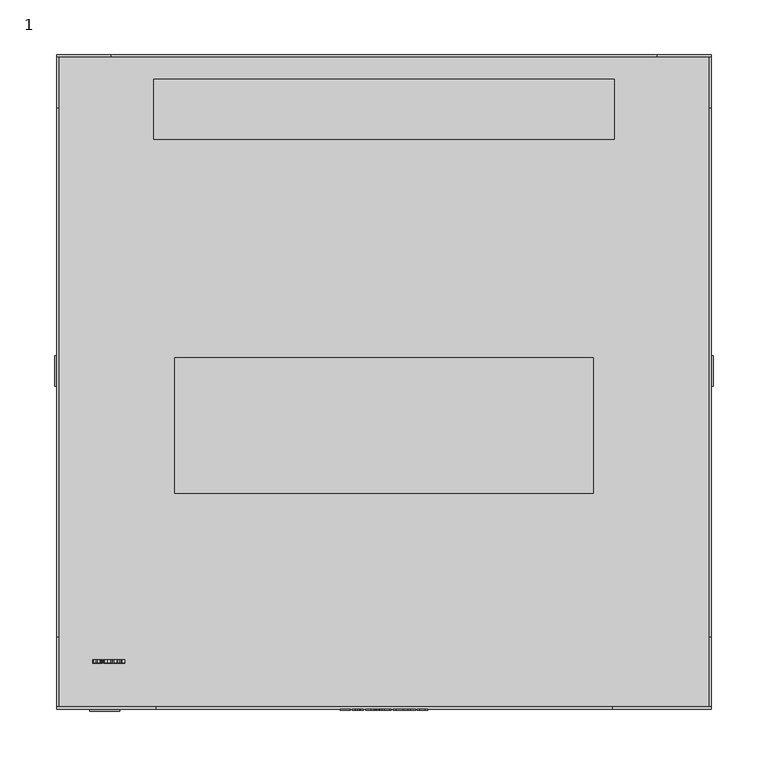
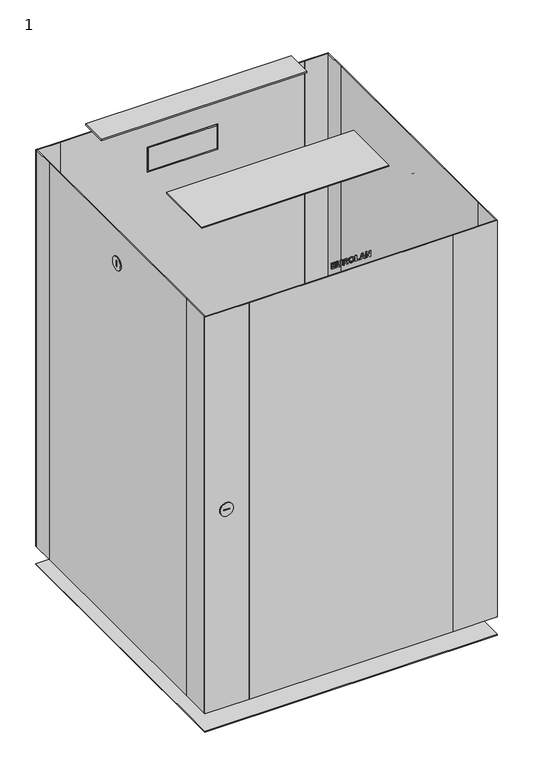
"""IFC4 building model written with IfcOpenShell, lengths in millimetres: proxy geometry, 1 : 18U 600мм стеклянная дверь."""

from ifc_helpers import new_model, si_unit, point, frame, frame_2d, origin, origin_with_axes, place, context, project, spatial, polyline, circle_curve, trimmed, segment, composite_curve, outline, extrude, source, transform, mapped, element, save


def proxy_1_49b35c16(model_context):
    return source(origin(), model_context, "Body", "SweptSolid", [
        extrude(outline(polyline([(914.0, -40.3245382), (914.0, -30.9964522), (916.1376864, -30.9964522), (916.1376864, -37.9925167), (919.2470483, -37.9925167), (919.2470483, -31.5794576), (921.3847347, -31.5794576), (921.3847347, -37.9925167), (924.1054264, -37.9925167), (924.1054264, -31.1907874), (926.2431128, -31.1907874), (926.2431128, -40.3245382), (914.0, -40.3245382)])), frame((0.0, -301.0, 0.0), z_axis=(0.0, 1.0, 0.0), x_axis=(0.0, 0.0, 1.0)), (0.0, 0.0, 1.0), 1.0),
        extrude(outline(polyline([(926.2431128, -29.053101), (919.7207402, -29.053101), (916.6174512, -28.8071456), (915.2601418, -28.1026808), (914.2095176, -26.6482039), (913.8056649, -23.9487675), (914.1761162, -21.5575346), (915.173602, -20.0954664), (916.7085458, -19.3454543), (919.8209443, -19.1420097), (926.2431128, -19.1420097), (926.2431128, -21.4740312), (919.4960402, -21.4740312), (917.4236383, -21.5924541), (916.3714958, -22.2923642), (915.9433512, -24.0216432), (916.3973059, -25.7979877), (917.5982363, -26.6208755), (919.6387551, -26.7210795), (926.2431128, -26.7210795), (926.2431128, -29.053101)])), frame((0.0, -301.0, 0.0), z_axis=(0.0, 1.0, 0.0), x_axis=(0.0, 0.0, 1.0)), (0.0, 0.0, 1.0), 1.0),
        extrude(outline(polyline([(914.0, -16.8099882), (914.0, -14.4779667), (919.0527132, -13.9435451), (918.9251808, -12.6120459), (918.4560437, -11.8164865), (916.7966039, -10.4242575), (914.0, -8.6509495), (914.0, -5.9272213), (916.3745323, -7.424209), (918.3512849, -8.7238252), (919.3715443, -9.9475291), (920.5071902, -7.6625732), (922.7936644, -6.8988969), (924.7339791, -7.4272455), (925.9121358, -8.8361752), (926.2431128, -11.6601074), (926.2431128, -16.8099882), (914.0, -16.8099882)]), holes=[polyline([(921.1903996, -14.4779667), (924.1054264, -14.4779667), (924.1054264, -12.4495939), (924.0659521, -10.5548264), (923.6150339, -9.5770778), (922.6782779, -9.2309184), (921.817434, -9.4935744), (921.3315962, -10.2223312), (921.1903996, -12.5558709), (921.1903996, -14.4779667)])]), frame((0.0, -301.0, 0.0), z_axis=(0.0, 1.0, 0.0), x_axis=(0.0, 0.0, 1.0)), (0.0, 0.0, 1.0), 1.0),
        extrude(outline(polyline([(920.0456442, -4.9555457), (915.4681411, -3.3735363), (913.8056649, 0.8896905), (915.4757323, 5.1225524), (920.106374, 6.7045618), (924.7628257, 5.1104065), (926.4374479, 0.8593256), (925.9546466, -1.7338337), (924.8539203, -3.2869964), (923.1792981, -4.4059416), (920.0456442, -4.9555457)]), holes=[polyline([(920.1306659, -2.6235242), (923.2612832, -1.6579215), (924.2997616, 0.886654), (923.2734292, 3.4190836), (920.1640672, 4.3725403), (916.9985302, 3.3932735), (915.9433512, 0.886654), (917.0061214, -1.6321114), (920.1306659, -2.6235242)])]), frame((0.0, -301.0, 0.0), z_axis=(0.0, 1.0, 0.0), x_axis=(0.0, 0.0, 1.0)), (0.0, 0.0, 1.0), 1.0),
        extrude(outline(polyline([(914.0, 8.647913), (914.0, 17.1986585), (916.1376864, 17.1986585), (916.1376864, 10.9799345), (926.2431128, 10.9799345), (926.2431128, 8.647913), (914.0, 8.647913)])), frame((0.0, -301.0, 0.0), z_axis=(0.0, 1.0, 0.0), x_axis=(0.0, 0.0, 1.0)), (0.0, 0.0, 1.0), 1.0),
        extrude(outline(polyline([(914.0, 29.2474361), (926.2431128, 24.7352175), (926.2431128, 22.2513717), (914.0, 17.7816638), (914.0, 20.2655096), (916.7206917, 21.2128934), (916.7206917, 25.837462), (914.0, 26.7969917), (914.0, 29.2474361)]), holes=[polyline([(918.8583781, 25.0904864), (918.8583781, 21.959869), (923.3280859, 23.51455), (918.8583781, 25.0904864)])]), frame((0.0, -301.0, 0.0), z_axis=(0.0, 1.0, 0.0), x_axis=(0.0, 0.0, 1.0)), (0.0, 0.0, 1.0), 1.0),
        extrude(outline(polyline([(914.0, 30.4134469), (914.0, 32.7454684), (922.1195644, 32.7454684), (914.0, 37.8042546), (914.0, 40.3245382), (926.2431128, 40.3245382), (926.2431128, 37.9925167), (918.002089, 37.9925167), (926.2431128, 32.8578184), (926.2431128, 30.4134469), (914.0, 30.4134469)])), frame((0.0, -301.0, 0.0), z_axis=(0.0, 1.0, 0.0), x_axis=(0.0, 0.0, 1.0)), (0.0, 0.0, 1.0), 1.0),
        extrude(outline(composite_curve([segment(trimmed(circle_curve(frame_2d((9.997621, 829.4611412)), 14.0), [point((-4.002379, 829.4611412))], [point((23.997621, 829.4611412))], False, "CARTESIAN"), True, "CONTINUOUS"), segment(trimmed(circle_curve(frame_2d((9.997621, 829.4611412)), 14.0), [point((23.997621, 829.4611412))], [point((-4.002379, 829.4611412))], False, "CARTESIAN"), True, "CONTINUOUS")], self_intersect=False), holes=[polyline([(11.0, 835.5), (9.0, 835.5), (9.0, 823.5), (11.0, 823.5), (11.0, 835.5)])]), frame((-302.0, 0.0, 0.0), z_axis=(1.0, 0.0, 0.0), x_axis=(0.0, 1.0, 0.0)), (0.0, 0.0, 1.0), 2.0),
        extrude(outline(composite_curve([segment(trimmed(circle_curve(frame_2d((9.997621, 829.4611412)), 14.0), [point((-4.002379, 829.4611412))], [point((23.997621, 829.4611412))], False, "CARTESIAN"), True, "CONTINUOUS"), segment(trimmed(circle_curve(frame_2d((9.997621, 829.4611412)), 14.0), [point((23.997621, 829.4611412))], [point((-4.002379, 829.4611412))], False, "CARTESIAN"), True, "CONTINUOUS")], self_intersect=False), holes=[polyline([(11.0, 835.5), (9.0, 835.5), (9.0, 823.5), (11.0, 823.5), (11.0, 835.5)])]), frame((300.0, 0.0, 0.0), z_axis=(1.0, 0.0, 0.0), x_axis=(0.0, 1.0, 0.0)), (0.0, 0.0, 1.0), 2.0),
        extrude(outline(composite_curve([segment(trimmed(circle_curve(frame_2d((469.0, -256.0)), 13.7647373), [point((469.0, -242.2352627))], [point((469.0, -269.7647373))], False, "CARTESIAN"), True, "CONTINUOUS"), segment(trimmed(circle_curve(frame_2d((469.0, -256.0)), 13.7647373), [point((469.0, -269.7647373))], [point((469.0, -242.2352627))], False, "CARTESIAN"), True, "CONTINUOUS")], self_intersect=False), holes=[polyline([(470.0, -250.0), (468.0, -250.0), (468.0, -262.0), (470.0, -262.0), (470.0, -250.0)])]), frame((0.0, -302.0, 0.0), z_axis=(0.0, 1.0, 0.0), x_axis=(0.0, 0.0, 1.0)), (0.0, 0.0, 1.0), 2.0),
        extrude(outline(polyline([(300.0, 300.0), (300.0, -300.0), (-300.0, -300.0), (-300.0, 300.0), (300.0, 300.0)])), origin_with_axes(), (0.0, 0.0, 1.0), 2.0),
        extrude(outline(polyline([(211.0, 277.5), (211.0, 222.5), (-211.0, 222.5), (-211.0, 277.5), (211.0, 277.5)])), frame((0.0, 0.0, 934.9795778), z_axis=(0.0, 0.0, 1.0), x_axis=(1.0, 0.0, 0.0)), (0.0, 0.0, 1.0), 3.0204222),
        extrude(outline(polyline([(192.0, 22.0), (192.0, -102.0), (-192.0, -102.0), (-192.0, 22.0), (192.0, 22.0)])), frame((0.0, 0.0, 934.9795778), z_axis=(0.0, 0.0, 1.0), x_axis=(1.0, 0.0, 0.0)), (0.0, 0.0, 1.0), 3.0204222),
        extrude(outline(polyline([(-69.5, 300.0), (69.5, 300.0), (69.5, 298.0), (-69.5, 298.0), (-69.5, 300.0)])), frame((0.0, 0.0, 775.0), z_axis=(0.0, 0.0, 1.0), x_axis=(1.0, 0.0, 0.0)), (0.0, 0.0, 1.0), 49.0),
        extrude(outline(polyline([(900.0, -250.0), (40.0, -250.0), (40.0, 250.0), (900.0, 250.0), (900.0, -250.0)]), holes=[polyline([(827.0, -72.5), (827.0, 72.5), (772.0, 72.5), (772.0, -72.5), (827.0, -72.5)])]), frame((0.0, 298.0, 0.0), z_axis=(0.0, 1.0, 0.0), x_axis=(0.0, 0.0, 1.0)), (0.0, 0.0, 1.0), 2.0),
        extrude(outline(polyline([(-300.0, 300.0), (-250.0, 300.0), (-250.0, 298.0), (-300.0, 298.0), (-300.0, 300.0)])), frame((0.0, 0.0, 40.0), z_axis=(0.0, 0.0, 1.0), x_axis=(1.0, 0.0, 0.0)), (0.0, 0.0, 1.0), 860.0),
        extrude(outline(polyline([(250.0, 300.0), (300.0, 300.0), (300.0, 298.0), (250.0, 298.0), (250.0, 300.0)])), frame((0.0, 0.0, 40.0), z_axis=(0.0, 0.0, 1.0), x_axis=(1.0, 0.0, 0.0)), (0.0, 0.0, 1.0), 860.0),
        extrude(outline(polyline([(-209.0, -298.0), (209.0, -298.0), (209.0, -300.0), (-209.0, -300.0), (-209.0, -298.0)])), frame((0.0, 0.0, 40.0), z_axis=(0.0, 0.0, 1.0), x_axis=(1.0, 0.0, 0.0)), (0.0, 0.0, 1.0), 860.0),
        extrude(outline(polyline([(209.0, -298.0), (300.0, -298.0), (300.0, -300.0), (209.0, -300.0), (209.0, -298.0)])), frame((0.0, 0.0, 40.0), z_axis=(0.0, 0.0, 1.0), x_axis=(1.0, 0.0, 0.0)), (0.0, 0.0, 1.0), 860.0),
        extrude(outline(polyline([(-300.0, -298.0), (-209.0, -298.0), (-209.0, -300.0), (-300.0, -300.0), (-300.0, -298.0)])), frame((0.0, 0.0, 40.0), z_axis=(0.0, 0.0, 1.0), x_axis=(1.0, 0.0, 0.0)), (0.0, 0.0, 1.0), 860.0),
        extrude(outline(polyline([(-298.0, 250.8155315), (-298.0, -233.7095641), (-300.0, -233.7095641), (-300.0, 250.8155315), (-298.0, 250.8155315)])), frame((0.0, 0.0, 40.0), z_axis=(0.0, 0.0, 1.0), x_axis=(1.0, 0.0, 0.0)), (0.0, 0.0, 1.0), 860.0),
        extrude(outline(polyline([(-298.0, -233.7095641), (-298.0, -300.0), (-300.0, -300.0), (-300.0, -233.7095641), (-298.0, -233.7095641)])), frame((0.0, 0.0, 40.0), z_axis=(0.0, 0.0, 1.0), x_axis=(1.0, 0.0, 0.0)), (0.0, 0.0, 1.0), 860.0),
        extrude(outline(polyline([(-298.0, 300.0), (-298.0, 250.8155315), (-300.0, 250.8155315), (-300.0, 300.0), (-298.0, 300.0)])), frame((0.0, 0.0, 40.0), z_axis=(0.0, 0.0, 1.0), x_axis=(1.0, 0.0, 0.0)), (0.0, 0.0, 1.0), 860.0),
        extrude(outline(polyline([(300.0, 250.8155315), (300.0, -233.7095641), (298.0, -233.7095641), (298.0, 250.8155315), (300.0, 250.8155315)])), frame((0.0, 0.0, 40.0), z_axis=(0.0, 0.0, 1.0), x_axis=(1.0, 0.0, 0.0)), (0.0, 0.0, 1.0), 860.0),
        extrude(outline(polyline([(300.0, 300.0), (300.0, 250.8155315), (298.0, 250.8155315), (298.0, 300.0), (300.0, 300.0)])), frame((0.0, 0.0, 40.0), z_axis=(0.0, 0.0, 1.0), x_axis=(1.0, 0.0, 0.0)), (0.0, 0.0, 1.0), 860.0),
        extrude(outline(polyline([(300.0, -233.7095641), (300.0, -300.0), (298.0, -300.0), (298.0, -233.7095641), (300.0, -233.7095641)])), frame((0.0, 0.0, 40.0), z_axis=(0.0, 0.0, 1.0), x_axis=(1.0, 0.0, 0.0)), (0.0, 0.0, 1.0), 860.0),
        extrude(outline(polyline([(814.9283299, -260.6030776), (827.1714427, -260.6030776), (827.1714427, -262.4614073), (825.2053178, -263.9037383), (824.0620807, -265.850126), (821.7300592, -265.850126), (823.6794834, -262.9350991), (814.9283299, -262.9350991), (814.9283299, -260.6030776)])), frame((0.0, -257.6777479, 0.0), z_axis=(0.0, 1.0, 0.0), x_axis=(0.0, 0.0, 1.0)), (0.0, 0.0, 1.0), 3.0),
        extrude(outline(polyline([(821.4962498, -255.0584536), (820.2254803, -256.6116164), (818.4172527, -257.1050454), (815.6024299, -255.8388306), (814.7339948, -253.1545767), (815.784619, -250.3761917), (818.5174567, -249.3316405), (820.3120201, -249.8584708), (821.4962498, -251.3964511), (822.508918, -250.0163681), (824.0226064, -249.5259756), (826.280234, -250.4946147), (827.1714427, -253.2183429), (826.280234, -255.9496624), (824.0226064, -256.9107103), (822.5499105, -256.4704198), (821.4962498, -255.0584536)]), holes=[polyline([(823.8798915, -254.5786888), (825.000355, -254.205201), (825.4224266, -253.2031605), (825.0033915, -252.2269302), (823.889001, -251.8579971), (822.7320997, -252.2314849), (822.3130646, -253.2274524), (822.727545, -254.2097557), (823.8798915, -254.5786888)]), polyline([(818.6146243, -254.7730239), (819.94916, -254.3889084), (820.5640485, -253.2213794), (820.0220357, -252.1039525), (818.5872959, -251.6636619), (817.0250237, -252.0963612), (816.4830109, -253.1910146), (817.0462791, -254.3205875), (818.6146243, -254.7730239)])]), frame((0.0, -257.6777479, 0.0), z_axis=(0.0, 1.0, 0.0), x_axis=(0.0, 0.0, 1.0)), (0.0, 0.0, 1.0), 3.0),
        extrude(outline(polyline([(827.1714427, -247.3882892), (820.6490701, -247.3882892), (817.5457811, -247.1423338), (816.1884717, -246.437869), (815.1378475, -244.9833921), (814.7339948, -242.2839557), (815.1044461, -239.8927228), (816.1019319, -238.4306546), (817.6368757, -237.6806425), (820.7492742, -237.4771979), (827.1714427, -237.4771979), (827.1714427, -239.8092194), (820.4243701, -239.8092194), (818.3519682, -239.9276424), (817.2998257, -240.6275524), (816.8716811, -242.3568314), (817.3256358, -244.1331759), (818.5265662, -244.9560637), (820.567085, -245.0562677), (827.1714427, -245.0562677), (827.1714427, -247.3882892)])), frame((0.0, -257.6777479, 0.0), z_axis=(0.0, 1.0, 0.0), x_axis=(0.0, 0.0, 1.0)), (0.0, 0.0, 1.0), 3.0),
        extrude(outline(polyline([(769.9283299, -260.6030776), (782.1714427, -260.6030776), (782.1714427, -262.4614073), (780.2053178, -263.9037383), (779.0620807, -265.850126), (776.7300592, -265.850126), (778.6794834, -262.9350991), (769.9283299, -262.9350991), (769.9283299, -260.6030776)])), frame((0.0, -257.6777479, 0.0), z_axis=(0.0, 1.0, 0.0), x_axis=(0.0, 0.0, 1.0)), (0.0, 0.0, 1.0), 3.0),
        extrude(outline(polyline([(779.6450861, -257.1050454), (779.6450861, -251.9976754), (775.0129262, -254.6804111), (769.9283299, -255.7446995), (769.9283299, -253.4126781), (773.5812229, -252.8873659), (777.440597, -251.3342032), (780.2280915, -249.3316405), (781.9771076, -249.3316405), (781.9771076, -257.1050454), (779.6450861, -257.1050454)])), frame((0.0, -257.6777479, 0.0), z_axis=(0.0, 1.0, 0.0), x_axis=(0.0, 0.0, 1.0)), (0.0, 0.0, 1.0), 3.0),
        extrude(outline(polyline([(782.1714427, -247.3882892), (775.6490701, -247.3882892), (772.5457811, -247.1423338), (771.1884717, -246.437869), (770.1378475, -244.9833921), (769.7339948, -242.2839557), (770.1044461, -239.8927228), (771.1019319, -238.4306546), (772.6368757, -237.6806425), (775.7492742, -237.4771979), (782.1714427, -237.4771979), (782.1714427, -239.8092194), (775.4243701, -239.8092194), (773.3519682, -239.9276424), (772.2998257, -240.6275524), (771.8716811, -242.3568314), (772.3256358, -244.1331759), (773.5265662, -244.9560637), (775.567085, -245.0562677), (782.1714427, -245.0562677), (782.1714427, -247.3882892)])), frame((0.0, -257.6777479, 0.0), z_axis=(0.0, 1.0, 0.0), x_axis=(0.0, 0.0, 1.0)), (0.0, 0.0, 1.0), 3.0),
        extrude(outline(polyline([(723.5967514, -260.6030776), (735.8398642, -260.6030776), (735.8398642, -262.4614073), (733.8737393, -263.9037383), (732.7305022, -265.850126), (730.3984808, -265.850126), (732.347905, -262.9350991), (723.5967514, -262.9350991), (723.5967514, -260.6030776)])), frame((0.0, -257.6777479, 0.0), z_axis=(0.0, 1.0, 0.0), x_axis=(0.0, 0.0, 1.0)), (0.0, 0.0, 1.0), 3.0),
        extrude(outline(polyline([(732.5908239, -249.5259756), (735.007867, -250.6373296), (735.8398642, -252.8387821), (734.3610954, -255.9192975), (729.5330822, -257.1050454), (724.8356378, -255.9693995), (723.4024163, -253.0725916), (724.512252, -250.3792282), (727.4561255, -249.3316405), (730.2770213, -250.3564546), (731.3701564, -252.8205632), (730.3468605, -254.9521766), (733.0569245, -254.3357699), (733.7021779, -253.1393943), (733.3696826, -252.2709592), (732.341832, -251.8579971), (732.5908239, -249.5259756)]), holes=[polyline([(727.5077458, -254.7730239), (728.795216, -254.3251422), (729.23247, -253.2304889), (728.7754788, -252.1115437), (727.3346661, -251.6636619), (725.9591378, -252.0796606), (725.5401027, -253.1181389), (726.0517506, -254.2689672), (727.5077458, -254.7730239)])]), frame((0.0, -257.6777479, 0.0), z_axis=(0.0, 1.0, 0.0), x_axis=(0.0, 0.0, 1.0)), (0.0, 0.0, 1.0), 3.0),
        extrude(outline(polyline([(735.8398642, -247.3882892), (729.3174916, -247.3882892), (726.2142026, -247.1423338), (724.8568932, -246.437869), (723.806269, -244.9833921), (723.4024163, -242.2839557), (723.7728676, -239.8927228), (724.7703534, -238.4306546), (726.3052972, -237.6806425), (729.4176957, -237.4771979), (735.8398642, -237.4771979), (735.8398642, -239.8092194), (729.0927916, -239.8092194), (727.0203897, -239.9276424), (725.9682472, -240.6275524), (725.5401027, -242.3568314), (725.9940574, -244.1331759), (727.1949877, -244.9560637), (729.2355065, -245.0562677), (735.8398642, -245.0562677), (735.8398642, -247.3882892)])), frame((0.0, -257.6777479, 0.0), z_axis=(0.0, 1.0, 0.0), x_axis=(0.0, 0.0, 1.0)), (0.0, 0.0, 1.0), 3.0),
        extrude(outline(polyline([(680.748317, -260.6030776), (692.9914298, -260.6030776), (692.9914298, -262.4614073), (691.0253049, -263.9037383), (689.8820678, -265.850126), (687.5500463, -265.850126), (689.4994705, -262.9350991), (680.748317, -262.9350991), (680.748317, -260.6030776)])), frame((0.0, -257.6777479, 0.0), z_axis=(0.0, 1.0, 0.0), x_axis=(0.0, 0.0, 1.0)), (0.0, 0.0, 1.0), 3.0),
        extrude(outline(polyline([(684.1947289, -257.1050454), (681.5408399, -255.8676772), (680.5539818, -253.194051), (682.1268817, -249.984485), (684.7473694, -249.1373053), (687.6122943, -250.1545282), (688.716057, -252.6323011), (688.2393287, -254.1353618), (690.4650731, -253.6647064), (690.4650731, -249.7203107), (692.7970946, -249.7203107), (692.7970946, -255.5503644), (685.9073072, -256.9107103), (685.606695, -254.8884104), (686.5783707, -253.1819051), (686.1077153, -251.9445369), (684.6957492, -251.4693268), (683.1911702, -251.9809748), (682.6916682, -253.2304889), (683.1623236, -254.3722077), (684.4406843, -254.967359), (684.1947289, -257.1050454)])), frame((0.0, -257.6777479, 0.0), z_axis=(0.0, 1.0, 0.0), x_axis=(0.0, 0.0, 1.0)), (0.0, 0.0, 1.0), 3.0),
        extrude(outline(polyline([(692.9914298, -247.3882892), (686.4690572, -247.3882892), (683.3657682, -247.1423338), (682.0084588, -246.437869), (680.9578345, -244.9833921), (680.5539818, -242.2839557), (680.9244332, -239.8927228), (681.9219189, -238.4306546), (683.4568627, -237.6806425), (686.5692612, -237.4771979), (692.9914298, -237.4771979), (692.9914298, -239.8092194), (686.2443572, -239.8092194), (684.1719553, -239.9276424), (683.1198128, -240.6275524), (682.6916682, -242.3568314), (683.1456229, -244.1331759), (684.3465532, -244.9560637), (686.387072, -245.0562677), (692.9914298, -245.0562677), (692.9914298, -247.3882892)])), frame((0.0, -257.6777479, 0.0), z_axis=(0.0, 1.0, 0.0), x_axis=(0.0, 0.0, 1.0)), (0.0, 0.0, 1.0), 3.0),
        extrude(outline(polyline([(636.0351924, -260.6030776), (648.2783052, -260.6030776), (648.2783052, -262.4614073), (646.3121803, -263.9037383), (645.1689432, -265.850126), (642.8369217, -265.850126), (644.7863459, -262.9350991), (636.0351924, -262.9350991), (636.0351924, -260.6030776)])), frame((0.0, -257.6777479, 0.0), z_axis=(0.0, 1.0, 0.0), x_axis=(0.0, 0.0, 1.0)), (0.0, 0.0, 1.0), 3.0),
        extrude(outline(polyline([(636.0351924, -252.8296727), (636.0351924, -250.4976512), (638.561549, -250.4976512), (638.561549, -248.9429702), (640.5049002, -248.9429702), (640.5049002, -250.4976512), (648.08397, -250.4976512), (648.08397, -252.5199511), (640.4957907, -257.4937157), (638.561549, -257.4937157), (638.561549, -252.8296727), (636.0351924, -252.8296727)]), holes=[polyline([(640.5049002, -252.8296727), (640.5049002, -255.4349779), (644.4826973, -252.8296727), (640.5049002, -252.8296727)])]), frame((0.0, -257.6777479, 0.0), z_axis=(0.0, 1.0, 0.0), x_axis=(0.0, 0.0, 1.0)), (0.0, 0.0, 1.0), 3.0),
        extrude(outline(polyline([(648.2783052, -247.3882892), (641.7559326, -247.3882892), (638.6526436, -247.1423338), (637.2953342, -246.437869), (636.2447099, -244.9833921), (635.8408572, -242.2839557), (636.2113086, -239.8927228), (637.2087943, -238.4306546), (638.7437381, -237.6806425), (641.8561366, -237.4771979), (648.2783052, -237.4771979), (648.2783052, -239.8092194), (641.5312326, -239.8092194), (639.4588307, -239.9276424), (638.4066882, -240.6275524), (637.9785436, -242.3568314), (638.4324983, -244.1331759), (639.6334286, -244.9560637), (641.6739474, -245.0562677), (648.2783052, -245.0562677), (648.2783052, -247.3882892)])), frame((0.0, -257.6777479, 0.0), z_axis=(0.0, 1.0, 0.0), x_axis=(0.0, 0.0, 1.0)), (0.0, 0.0, 1.0), 3.0),
        extrude(outline(polyline([(591.485825, -260.6030776), (603.7289378, -260.6030776), (603.7289378, -262.4614073), (601.762813, -263.9037383), (600.6195759, -265.850126), (598.2875544, -265.850126), (600.2369786, -262.9350991), (591.485825, -262.9350991), (591.485825, -260.6030776)])), frame((0.0, -257.6777479, 0.0), z_axis=(0.0, 1.0, 0.0), x_axis=(0.0, 0.0, 1.0)), (0.0, 0.0, 1.0), 3.0),
        extrude(outline(polyline([(594.9079451, -257.1050454), (592.2920122, -255.8919691), (591.2914899, -253.2578173), (592.4165081, -250.4566586), (595.1356816, -249.3316405), (597.0137484, -249.9662661), (598.0142706, -251.6606255), (600.5861745, -249.9146458), (602.6266933, -250.7284242), (603.7289378, -253.3458754), (603.3311581, -255.0690813), (602.2395413, -256.2684934), (600.3857664, -256.9107103), (600.0365705, -254.5786888), (601.19499, -254.1611719), (601.5912515, -253.3306929), (601.2496468, -252.5427247), (600.3341462, -252.2466673), (599.253157, -252.6429288), (598.8705597, -253.7922388), (596.9484639, -253.9956834), (597.1215436, -253.0695551), (596.6387423, -252.0720693), (595.3300167, -251.6636619), (593.9438607, -252.1100254), (593.4291763, -253.21227), (593.8785763, -254.2477118), (595.1781924, -254.7730239), (594.9079451, -257.1050454)])), frame((0.0, -257.6777479, 0.0), z_axis=(0.0, 1.0, 0.0), x_axis=(0.0, 0.0, 1.0)), (0.0, 0.0, 1.0), 3.0),
        extrude(outline(polyline([(603.7289378, -247.3882892), (597.2065653, -247.3882892), (594.1032762, -247.1423338), (592.7459669, -246.437869), (591.6953426, -244.9833921), (591.2914899, -242.2839557), (591.6619413, -239.8927228), (592.659427, -238.4306546), (594.1943708, -237.6806425), (597.3067693, -237.4771979), (603.7289378, -237.4771979), (603.7289378, -239.8092194), (596.9818653, -239.8092194), (594.9094634, -239.9276424), (593.8573209, -240.6275524), (593.4291763, -242.3568314), (593.883131, -244.1331759), (595.0840613, -244.9560637), (597.1245801, -245.0562677), (603.7289378, -245.0562677), (603.7289378, -247.3882892)])), frame((0.0, -257.6777479, 0.0), z_axis=(0.0, 1.0, 0.0), x_axis=(0.0, 0.0, 1.0)), (0.0, 0.0, 1.0), 3.0),
        extrude(outline(polyline([(547.6333267, -260.6030776), (559.8764395, -260.6030776), (559.8764395, -262.4614073), (557.9103146, -263.9037383), (556.7670775, -265.850126), (554.435056, -265.850126), (556.3844802, -262.9350991), (547.6333267, -262.9350991), (547.6333267, -260.6030776)])), frame((0.0, -257.6777479, 0.0), z_axis=(0.0, 1.0, 0.0), x_axis=(0.0, 0.0, 1.0)), (0.0, 0.0, 1.0), 3.0),
        extrude(outline(polyline([(549.9653481, -249.3316405), (550.6030103, -253.2395983), (551.9299548, -251.9080991), (553.4603439, -250.4581769), (554.9937695, -249.6018877), (556.5363045, -249.3316405), (558.918428, -250.3184985), (559.8764395, -253.0331173), (559.0216686, -255.6596779), (556.202291, -256.9107103), (555.989737, -254.5786888), (557.3333822, -254.1292888), (557.7387531, -253.0847375), (557.3273092, -252.0417045), (556.1476343, -251.6636619), (554.7447776, -252.1130619), (552.7892804, -253.9167348), (549.9213191, -256.3611063), (547.6333267, -257.1050454), (547.6333267, -249.3316405), (549.9653481, -249.3316405)])), frame((0.0, -257.6777479, 0.0), z_axis=(0.0, 1.0, 0.0), x_axis=(0.0, 0.0, 1.0)), (0.0, 0.0, 1.0), 3.0),
        extrude(outline(polyline([(559.8764395, -247.3882892), (553.3540669, -247.3882892), (550.2507779, -247.1423338), (548.8934685, -246.437869), (547.8428442, -244.9833921), (547.4389915, -242.2839557), (547.8094429, -239.8927228), (548.8069286, -238.4306546), (550.3418725, -237.6806425), (553.4542709, -237.4771979), (559.8764395, -237.4771979), (559.8764395, -239.8092194), (553.1293669, -239.8092194), (551.056965, -239.9276424), (550.0048225, -240.6275524), (549.5766779, -242.3568314), (550.0306326, -244.1331759), (551.2315629, -244.9560637), (553.2720817, -245.0562677), (559.8764395, -245.0562677), (559.8764395, -247.3882892)])), frame((0.0, -257.6777479, 0.0), z_axis=(0.0, 1.0, 0.0), x_axis=(0.0, 0.0, 1.0)), (0.0, 0.0, 1.0), 3.0),
        extrude(outline(polyline([(501.1786301, -260.6030776), (513.4217429, -260.6030776), (513.4217429, -262.4614073), (511.455618, -263.9037383), (510.3123809, -265.850126), (507.9803594, -265.850126), (509.9297836, -262.9350991), (501.1786301, -262.9350991), (501.1786301, -260.6030776)])), frame((0.0, -257.6777479, 0.0), z_axis=(0.0, 1.0, 0.0), x_axis=(0.0, 0.0, 1.0)), (0.0, 0.0, 1.0), 3.0),
        extrude(outline(polyline([(501.1786301, -251.2749917), (513.4217429, -251.2749917), (513.4217429, -253.1333213), (511.455618, -254.5756523), (510.3123809, -256.52204), (507.9803594, -256.52204), (509.9297836, -253.6070132), (501.1786301, -253.6070132), (501.1786301, -251.2749917)])), frame((0.0, -257.6777479, 0.0), z_axis=(0.0, 1.0, 0.0), x_axis=(0.0, 0.0, 1.0)), (0.0, 0.0, 1.0), 3.0),
        extrude(outline(polyline([(513.4217429, -247.3882892), (506.8993703, -247.3882892), (503.7960813, -247.1423338), (502.4387719, -246.437869), (501.3881476, -244.9833921), (500.9842949, -242.2839557), (501.3547463, -239.8927228), (502.352232, -238.4306546), (503.8871758, -237.6806425), (506.9995743, -237.4771979), (513.4217429, -237.4771979), (513.4217429, -239.8092194), (506.6746703, -239.8092194), (504.6022684, -239.9276424), (503.5501259, -240.6275524), (503.1219813, -242.3568314), (503.575936, -244.1331759), (504.7768663, -244.9560637), (506.8173851, -245.0562677), (513.4217429, -245.0562677), (513.4217429, -247.3882892)])), frame((0.0, -257.6777479, 0.0), z_axis=(0.0, 1.0, 0.0), x_axis=(0.0, 0.0, 1.0)), (0.0, 0.0, 1.0), 3.0),
        extrude(outline(polyline([(457.3261317, -260.6030776), (469.5692445, -260.6030776), (469.5692445, -262.4614073), (467.6031196, -263.9037383), (466.4598825, -265.850126), (464.127861, -265.850126), (466.0772852, -262.9350991), (457.3261317, -262.9350991), (457.3261317, -260.6030776)])), frame((0.0, -257.6777479, 0.0), z_axis=(0.0, 1.0, 0.0), x_axis=(0.0, 0.0, 1.0)), (0.0, 0.0, 1.0), 3.0),
        extrude(outline(polyline([(469.5692445, -253.2183429), (468.3242851, -255.9299252), (463.3717759, -257.1050454), (458.4982154, -256.034684), (457.1317966, -253.2183429), (458.3767559, -250.5067607), (463.347484, -249.3316405), (468.3060662, -250.5006877), (469.5692445, -253.2183429)]), holes=[polyline([(467.4315581, -253.2183429), (467.174975, -252.4455572), (466.1531974, -251.8853254), (463.347484, -251.6636619), (460.4476396, -251.9126538), (459.526066, -252.4410024), (459.2694829, -253.2183429), (459.5230295, -253.9911287), (460.5402524, -254.5513604), (463.347484, -254.7730239), (466.2534014, -254.524032), (467.174975, -253.9956834), (467.4315581, -253.2183429)])]), frame((0.0, -257.6777479, 0.0), z_axis=(0.0, 1.0, 0.0), x_axis=(0.0, 0.0, 1.0)), (0.0, 0.0, 1.0), 3.0),
        extrude(outline(polyline([(469.5692445, -247.3882892), (463.0468719, -247.3882892), (459.9435829, -247.1423338), (458.5862735, -246.437869), (457.5356492, -244.9833921), (457.1317966, -242.2839557), (457.5022479, -239.8927228), (458.4997336, -238.4306546), (460.0346775, -237.6806425), (463.1470759, -237.4771979), (469.5692445, -237.4771979), (469.5692445, -239.8092194), (462.8221719, -239.8092194), (460.74977, -239.9276424), (459.6976275, -240.6275524), (459.2694829, -242.3568314), (459.7234376, -244.1331759), (460.924368, -244.9560637), (462.9648868, -245.0562677), (469.5692445, -245.0562677), (469.5692445, -247.3882892)])), frame((0.0, -257.6777479, 0.0), z_axis=(0.0, 1.0, 0.0), x_axis=(0.0, 0.0, 1.0)), (0.0, 0.0, 1.0), 3.0),
        extrude(outline(polyline([(416.2414631, -266.2387962), (413.8062011, -265.1547706), (412.9924228, -262.9381356), (414.4696734, -259.8469925), (419.2870589, -258.6597264), (423.9981674, -259.7953723), (425.4298707, -262.7012897), (424.3169985, -265.3809888), (421.3852709, -266.4331314), (418.550711, -265.4083172), (417.4621306, -262.971537), (418.476317, -260.8065222), (415.7753625, -261.4290019), (415.1301091, -262.6071586), (415.4641226, -263.4922944), (416.490455, -263.9067747), (416.2414631, -266.2387962)]), holes=[polyline([(421.3306142, -260.9917479), (420.0385892, -261.4365931), (419.599817, -262.5312464), (420.0568082, -263.6517099), (421.4885115, -264.1011099), (422.8701127, -263.6881477), (423.2921843, -262.6496694), (422.7774999, -261.4927681), (421.3306142, -260.9917479)])]), frame((0.0, -257.6777479, 0.0), z_axis=(0.0, 1.0, 0.0), x_axis=(0.0, 0.0, 1.0)), (0.0, 0.0, 1.0), 3.0),
        extrude(outline(polyline([(425.4298707, -256.7163752), (418.9074981, -256.7163752), (415.8042091, -256.4704198), (414.4468997, -255.7659549), (413.3962754, -254.311478), (412.9924228, -251.6120417), (413.3628741, -249.2208087), (414.3603599, -247.7587405), (415.8953037, -247.0087284), (419.0077021, -246.8052838), (425.4298707, -246.8052838), (425.4298707, -249.1373053), (418.6827981, -249.1373053), (416.6103962, -249.2557283), (415.5582537, -249.9556384), (415.1301091, -251.6849173), (415.5840638, -253.4612618), (416.7849942, -254.2841496), (418.825513, -254.3843537), (425.4298707, -254.3843537), (425.4298707, -256.7163752)])), frame((0.0, -257.6777479, 0.0), z_axis=(0.0, 1.0, 0.0), x_axis=(0.0, 0.0, 1.0)), (0.0, 0.0, 1.0), 3.0),
        extrude(outline(polyline([(376.4962498, -264.3865396), (375.2254803, -265.9397023), (373.4172527, -266.4331314), (370.6024299, -265.1669166), (369.7339948, -262.4826627), (370.784619, -259.7042777), (373.5174567, -258.6597264), (375.3120201, -259.1865568), (376.4962498, -260.7245371), (377.508918, -259.3444541), (379.0226064, -258.8540615), (381.280234, -259.8227007), (382.1714427, -262.5464289), (381.280234, -265.2777483), (379.0226064, -266.2387962), (377.5499105, -265.7985057), (376.4962498, -264.3865396)]), holes=[polyline([(378.8798915, -263.9067747), (380.000355, -263.5332869), (380.4224266, -262.5312464), (380.0033915, -261.5550161), (378.889001, -261.186083), (377.7320997, -261.5595708), (377.3130646, -262.5555383), (377.727545, -263.5378417), (378.8798915, -263.9067747)]), polyline([(373.6146243, -264.1011099), (374.94916, -263.7169943), (375.5640485, -262.5494654), (375.0220357, -261.4320384), (373.5872959, -260.9917479), (372.0250237, -261.4244472), (371.4830109, -262.5191005), (372.0462791, -263.6486734), (373.6146243, -264.1011099)])]), frame((0.0, -257.6777479, 0.0), z_axis=(0.0, 1.0, 0.0), x_axis=(0.0, 0.0, 1.0)), (0.0, 0.0, 1.0), 3.0),
        extrude(outline(polyline([(382.1714427, -256.7163752), (375.6490701, -256.7163752), (372.5457811, -256.4704198), (371.1884717, -255.7659549), (370.1378475, -254.311478), (369.7339948, -251.6120417), (370.1044461, -249.2208087), (371.1019319, -247.7587405), (372.6368757, -247.0087284), (375.7492742, -246.8052838), (382.1714427, -246.8052838), (382.1714427, -249.1373053), (375.4243701, -249.1373053), (373.3519682, -249.2557283), (372.2998257, -249.9556384), (371.8716811, -251.6849173), (372.3256358, -253.4612618), (373.5265662, -254.2841496), (375.567085, -254.3843537), (382.1714427, -254.3843537), (382.1714427, -256.7163752)])), frame((0.0, -257.6777479, 0.0), z_axis=(0.0, 1.0, 0.0), x_axis=(0.0, 0.0, 1.0)), (0.0, 0.0, 1.0), 3.0),
        extrude(outline(polyline([(334.6450861, -266.4331314), (334.6450861, -261.3257614), (330.0129262, -264.008497), (324.9283299, -265.0727855), (324.9283299, -262.740764), (328.5812229, -262.2154519), (332.440597, -260.6622891), (335.2280915, -258.6597264), (336.9771076, -258.6597264), (336.9771076, -266.4331314), (334.6450861, -266.4331314)])), frame((0.0, -257.6777479, 0.0), z_axis=(0.0, 1.0, 0.0), x_axis=(0.0, 0.0, 1.0)), (0.0, 0.0, 1.0), 3.0),
        extrude(outline(polyline([(337.1714427, -256.7163752), (330.6490701, -256.7163752), (327.5457811, -256.4704198), (326.1884717, -255.7659549), (325.1378475, -254.311478), (324.7339948, -251.6120417), (325.1044461, -249.2208087), (326.1019319, -247.7587405), (327.6368757, -247.0087284), (330.7492742, -246.8052838), (337.1714427, -246.8052838), (337.1714427, -249.1373053), (330.4243701, -249.1373053), (328.3519682, -249.2557283), (327.2998257, -249.9556384), (326.8716811, -251.6849173), (327.3256358, -253.4612618), (328.5265662, -254.2841496), (330.567085, -254.3843537), (337.1714427, -254.3843537), (337.1714427, -256.7163752)])), frame((0.0, -257.6777479, 0.0), z_axis=(0.0, 1.0, 0.0), x_axis=(0.0, 0.0, 1.0)), (0.0, 0.0, 1.0), 3.0),
        extrude(outline(polyline([(287.6111434, -258.8540615), (290.0281866, -259.9654155), (290.8601838, -262.1668681), (289.381415, -265.2473834), (284.5534017, -266.4331314), (279.8559574, -265.2974855), (278.4227359, -262.4006775), (279.5325716, -259.7073142), (282.4764451, -258.6597264), (285.2973409, -259.6845405), (286.390476, -262.1486492), (285.3671801, -264.2802626), (288.0772441, -263.6638558), (288.7224974, -262.4674802), (288.3900022, -261.5990451), (287.3621516, -261.186083), (287.6111434, -258.8540615)]), holes=[polyline([(282.5280654, -264.1011099), (283.8155356, -263.6532281), (284.2527896, -262.5585748), (283.7957984, -261.4396296), (282.3549856, -260.9917479), (280.9794573, -261.4077465), (280.5604222, -262.4462248), (281.0720702, -263.5970531), (282.5280654, -264.1011099)])]), frame((0.0, -257.6777479, 0.0), z_axis=(0.0, 1.0, 0.0), x_axis=(0.0, 0.0, 1.0)), (0.0, 0.0, 1.0), 3.0),
        extrude(outline(polyline([(290.8601838, -256.7163752), (284.3378112, -256.7163752), (281.2345222, -256.4704198), (279.8772128, -255.7659549), (278.8265886, -254.311478), (278.4227359, -251.6120417), (278.7931872, -249.2208087), (279.790673, -247.7587405), (281.3256168, -247.0087284), (284.4380153, -246.8052838), (290.8601838, -246.8052838), (290.8601838, -249.1373053), (284.1131112, -249.1373053), (282.0407093, -249.2557283), (280.9885668, -249.9556384), (280.5604222, -251.6849173), (281.0143769, -253.4612618), (282.2153073, -254.2841496), (284.2558261, -254.3843537), (290.8601838, -254.3843537), (290.8601838, -256.7163752)])), frame((0.0, -257.6777479, 0.0), z_axis=(0.0, 1.0, 0.0), x_axis=(0.0, 0.0, 1.0)), (0.0, 0.0, 1.0), 3.0),
        extrude(outline(polyline([(237.3503584, -266.4331314), (234.6964693, -265.1957632), (233.7096113, -262.522137), (235.2825112, -259.312571), (237.9029989, -258.4653913), (240.7679237, -259.4826142), (241.8716865, -261.960387), (241.3949581, -263.4634477), (243.6207026, -262.9927924), (243.6207026, -259.0483966), (245.9527241, -259.0483966), (245.9527241, -264.8784504), (239.0629366, -266.2387962), (238.7623245, -264.2164963), (239.7340001, -262.509991), (239.2633447, -261.2726229), (237.8513786, -260.7974128), (236.3467996, -261.3090607), (235.8472976, -262.5585748), (236.317953, -263.7002937), (237.5963138, -264.295445), (237.3503584, -266.4331314)])), frame((0.0, -257.6777479, 0.0), z_axis=(0.0, 1.0, 0.0), x_axis=(0.0, 0.0, 1.0)), (0.0, 0.0, 1.0), 3.0),
        extrude(outline(polyline([(246.1470592, -256.7163752), (239.6246866, -256.7163752), (236.5213976, -256.4704198), (235.1640882, -255.7659549), (234.113464, -254.311478), (233.7096113, -251.6120417), (234.0800626, -249.2208087), (235.0775484, -247.7587405), (236.6124922, -247.0087284), (239.7248907, -246.8052838), (246.1470592, -246.8052838), (246.1470592, -249.1373053), (239.3999866, -249.1373053), (237.3275847, -249.2557283), (236.2754422, -249.9556384), (235.8472976, -251.6849173), (236.3012523, -253.4612618), (237.5021827, -254.2841496), (239.5427015, -254.3843537), (246.1470592, -254.3843537), (246.1470592, -256.7163752)])), frame((0.0, -257.6777479, 0.0), z_axis=(0.0, 1.0, 0.0), x_axis=(0.0, 0.0, 1.0)), (0.0, 0.0, 1.0), 3.0),
        extrude(outline(polyline([(189.9283299, -262.1577586), (189.9283299, -259.8257371), (192.4546865, -259.8257371), (192.4546865, -258.2710562), (194.3980377, -258.2710562), (194.3980377, -259.8257371), (201.9771076, -259.8257371), (201.9771076, -261.848037), (194.3889283, -266.8218016), (192.4546865, -266.8218016), (192.4546865, -262.1577586), (189.9283299, -262.1577586)]), holes=[polyline([(194.3980377, -262.1577586), (194.3980377, -264.7630639), (198.3758348, -262.1577586), (194.3980377, -262.1577586)])]), frame((0.0, -257.6777479, 0.0), z_axis=(0.0, 1.0, 0.0), x_axis=(0.0, 0.0, 1.0)), (0.0, 0.0, 1.0), 3.0),
        extrude(outline(polyline([(202.1714427, -256.7163752), (195.6490701, -256.7163752), (192.5457811, -256.4704198), (191.1884717, -255.7659549), (190.1378475, -254.311478), (189.7339948, -251.6120417), (190.1044461, -249.2208087), (191.1019319, -247.7587405), (192.6368757, -247.0087284), (195.7492742, -246.8052838), (202.1714427, -246.8052838), (202.1714427, -249.1373053), (195.4243701, -249.1373053), (193.3519682, -249.2557283), (192.2998257, -249.9556384), (191.8716811, -251.6849173), (192.3256358, -253.4612618), (193.5265662, -254.2841496), (195.567085, -254.3843537), (202.1714427, -254.3843537), (202.1714427, -256.7163752)])), frame((0.0, -257.6777479, 0.0), z_axis=(0.0, 1.0, 0.0), x_axis=(0.0, 0.0, 1.0)), (0.0, 0.0, 1.0), 3.0),
        extrude(outline(polyline([(148.35045, -266.4331314), (145.734517, -265.2200551), (144.7339948, -262.5859032), (145.859013, -259.7847446), (148.5781864, -258.6597264), (150.4562532, -259.294352), (151.4567755, -260.9887114), (154.0286794, -259.2427318), (156.0691982, -260.0565101), (157.1714427, -262.6739613), (156.773663, -264.3971673), (155.6820462, -265.5965794), (153.8282713, -266.2387962), (153.4790753, -263.9067747), (154.6374949, -263.4892579), (155.0337563, -262.6587789), (154.6921516, -261.8708107), (153.776651, -261.5747533), (152.6956619, -261.9710147), (152.3130646, -263.1203248), (150.3909688, -263.3237694), (150.5640485, -262.397641), (150.0812472, -261.4001553), (148.7725216, -260.9917479), (147.3863656, -261.4381114), (146.8716811, -262.5403559), (147.3210811, -263.5757977), (148.6206973, -264.1011099), (148.35045, -266.4331314)])), frame((0.0, -257.6777479, 0.0), z_axis=(0.0, 1.0, 0.0), x_axis=(0.0, 0.0, 1.0)), (0.0, 0.0, 1.0), 3.0),
        extrude(outline(polyline([(157.1714427, -256.7163752), (150.6490701, -256.7163752), (147.5457811, -256.4704198), (146.1884717, -255.7659549), (145.1378475, -254.311478), (144.7339948, -251.6120417), (145.1044461, -249.2208087), (146.1019319, -247.7587405), (147.6368757, -247.0087284), (150.7492742, -246.8052838), (157.1714427, -246.8052838), (157.1714427, -249.1373053), (150.4243701, -249.1373053), (148.3519682, -249.2557283), (147.2998257, -249.9556384), (146.8716811, -251.6849173), (147.3256358, -253.4612618), (148.5265662, -254.2841496), (150.567085, -254.3843537), (157.1714427, -254.3843537), (157.1714427, -256.7163752)])), frame((0.0, -257.6777479, 0.0), z_axis=(0.0, 1.0, 0.0), x_axis=(0.0, 0.0, 1.0)), (0.0, 0.0, 1.0), 3.0),
        extrude(outline(polyline([(103.3014708, -258.8246798), (103.9391329, -262.7326376), (105.2660774, -261.4011384), (106.7964665, -259.9512162), (108.3298921, -259.094927), (109.8724272, -258.8246798), (112.2545507, -259.8115378), (113.2125621, -262.5261566), (112.3577912, -265.1527172), (109.5384137, -266.4037496), (109.3258596, -264.0717281), (110.6695048, -263.6223281), (111.0748758, -262.5777768), (110.6634319, -261.5347438), (109.4837569, -261.1567012), (108.0809003, -261.6061012), (106.1254031, -263.4097741), (103.2574418, -265.8541456), (100.9694493, -266.5980847), (100.9694493, -258.8246798), (103.3014708, -258.8246798)])), frame((0.0, -257.6777479, 0.0), z_axis=(0.0, 1.0, 0.0), x_axis=(0.0, 0.0, 1.0)), (0.0, 0.0, 1.0), 3.0),
        extrude(outline(polyline([(113.2125621, -256.8813285), (106.6901895, -256.8813285), (103.5869005, -256.6353731), (102.2295911, -255.9309083), (101.1789669, -254.4764314), (100.7751142, -251.776995), (101.1455655, -249.3857621), (102.1430513, -247.9236939), (103.6779951, -247.1736818), (106.7903936, -246.9702372), (113.2125621, -246.9702372), (113.2125621, -249.3022587), (106.4654895, -249.3022587), (104.3930876, -249.4206817), (103.3409451, -250.1205917), (102.9128006, -251.8498707), (103.3667553, -253.6262152), (104.5676856, -254.449103), (106.6082044, -254.549307), (113.2125621, -254.549307), (113.2125621, -256.8813285)])), frame((0.0, -257.6777479, 0.0), z_axis=(0.0, 1.0, 0.0), x_axis=(0.0, 0.0, 1.0)), (0.0, 0.0, 1.0), 3.0),
        extrude(outline(polyline([(59.9283299, -260.6030776), (72.1714427, -260.6030776), (72.1714427, -262.4614073), (70.2053178, -263.9037383), (69.0620807, -265.850126), (66.7300592, -265.850126), (68.6794834, -262.9350991), (59.9283299, -262.9350991), (59.9283299, -260.6030776)])), frame((0.0, -257.6777479, 0.0), z_axis=(0.0, 1.0, 0.0), x_axis=(0.0, 0.0, 1.0)), (0.0, 0.0, 1.0), 3.0),
        extrude(outline(polyline([(72.1714427, -256.7163752), (65.6490701, -256.7163752), (62.5457811, -256.4704198), (61.1884717, -255.7659549), (60.1378475, -254.311478), (59.7339948, -251.6120417), (60.1044461, -249.2208087), (61.1019319, -247.7587405), (62.6368757, -247.0087284), (65.7492742, -246.8052838), (72.1714427, -246.8052838), (72.1714427, -249.1373053), (65.4243701, -249.1373053), (63.3519682, -249.2557283), (62.2998257, -249.9556384), (61.8716811, -251.6849173), (62.3256358, -253.4612618), (63.5265662, -254.2841496), (65.567085, -254.3843537), (72.1714427, -254.3843537), (72.1714427, -256.7163752)])), frame((0.0, -257.6777479, 0.0), z_axis=(0.0, 1.0, 0.0), x_axis=(0.0, 0.0, 1.0)), (0.0, 0.0, 1.0), 3.0),
    ])


if __name__ == "__main__":
    model = new_model("IFC4")
    model_context = context("Model", 3, world=origin())
    ifc_project = project(units=[si_unit("LENGTHUNIT", "METRE", prefix="MILLI")], contexts=[model_context])
    site = spatial("IfcSite", under=ifc_project)
    building = spatial("IfcBuilding", under=site)
    placement = place(None, origin())
    proxy_1_shape = proxy_1_49b35c16(model_context)
    element("IfcBuildingElementProxy", 1, Name="1 : 18U 600мм стеклянная дверь", ObjectType="1 : 18U 600мм стеклянная дверь", at=placement, inside=building, context=model_context, shape_type="MappedRepresentation", body=[
        mapped(proxy_1_shape, transform((0.0, 0.0, 0.0), x_axis=(1.0, 0.0, 0.0), y_axis=(0.0, 1.0, 0.0), z_axis=(0.0, 0.0, 1.0))),
    ])
    save(model, "model.ifc")
